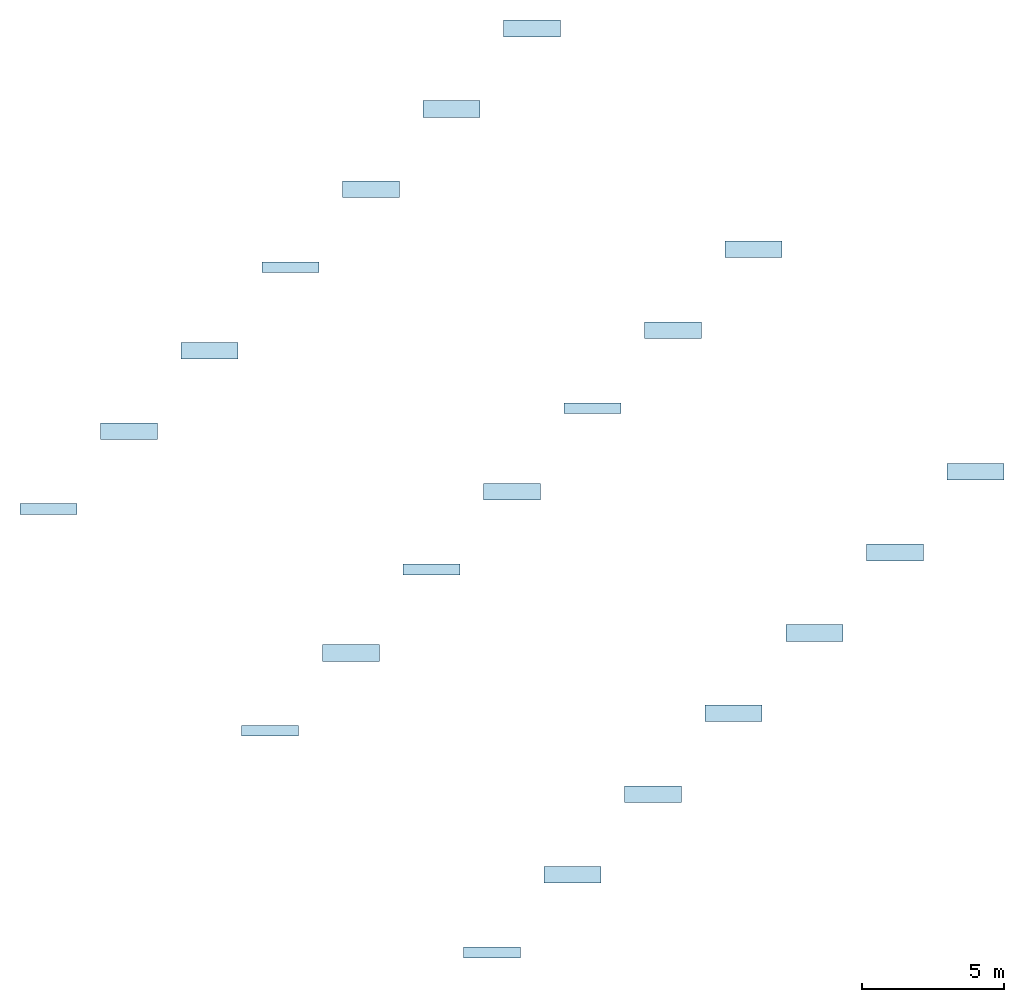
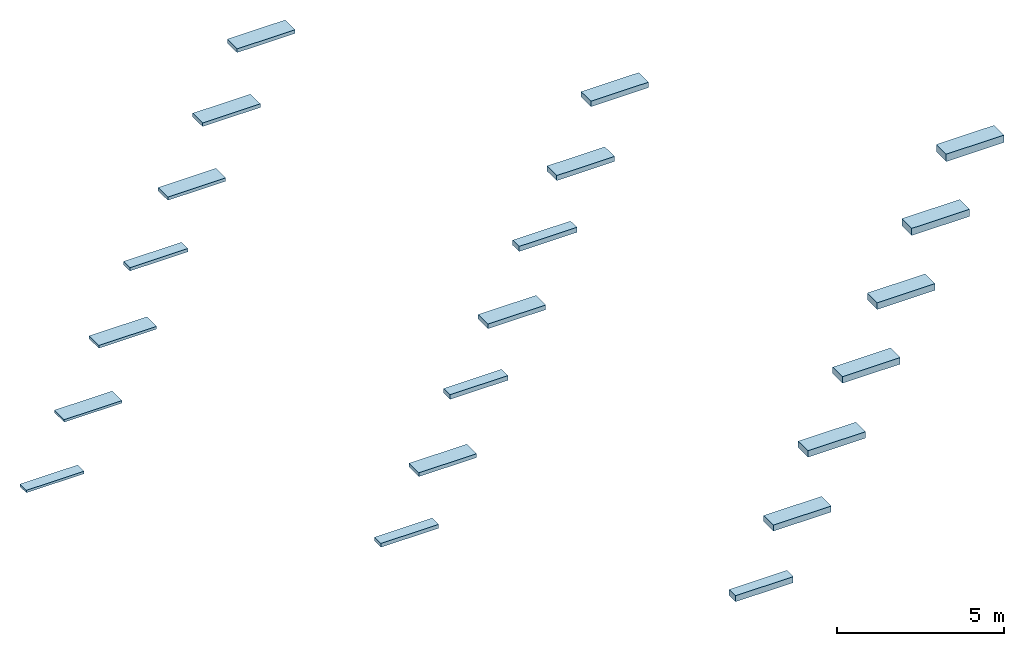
# One storey: 21 slabs, 21 elements without a shape of their own.
"""IFC2X3 building model written with IfcOpenShell, lengths in millimetres."""

from ifc_helpers import new_model, entity, si_unit, converted_unit, derived_unit, direction, frame, frame_2d, origin, origin_2d_with_axis, place, context, subcontext, project, spatial, rectangle, extrude, type_object, element, aggregate, save


model = new_model("IFC2X3")

# Units and contexts
model_context = context("Model", 3, precision=0.01, world=origin(), true_north=direction((6.12303176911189e-17, 1.0)))
context_of_model = context(None, 3, precision=0.01, world=origin(), true_north=direction((6.12303176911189e-17, 1.0)))
body_context = subcontext(model_context, "Body", "Model", "MODEL_VIEW")
ifc_project = project(units=[si_unit("LENGTHUNIT", "METRE", prefix="MILLI"), si_unit("AREAUNIT", "SQUARE_METRE"), si_unit("VOLUMEUNIT", "CUBIC_METRE"), converted_unit("PLANEANGLEUNIT", "DEGREE", entity("IfcRatioMeasure", 0.0174532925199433), si_unit("PLANEANGLEUNIT", "RADIAN"), dimensions=[0, 0, 0, 0, 0, 0, 0]), si_unit("MASSUNIT", "GRAM", prefix="KILO"), derived_unit("MASSDENSITYUNIT", [(si_unit("MASSUNIT", "GRAM", prefix="KILO"), 1), (si_unit("LENGTHUNIT", "METRE"), -3)]), derived_unit("MOMENTOFINERTIAUNIT", [(si_unit("LENGTHUNIT", "METRE"), 4)]), si_unit("TIMEUNIT", "SECOND"), si_unit("FREQUENCYUNIT", "HERTZ"), si_unit("THERMODYNAMICTEMPERATUREUNIT", "DEGREE_CELSIUS"), derived_unit("THERMALTRANSMITTANCEUNIT", [(si_unit("MASSUNIT", "GRAM", prefix="KILO"), 1), (si_unit("THERMODYNAMICTEMPERATUREUNIT", "KELVIN"), -1), (si_unit("TIMEUNIT", "SECOND"), -3)]), derived_unit("VOLUMETRICFLOWRATEUNIT", [(si_unit("LENGTHUNIT", "METRE"), 3), (si_unit("TIMEUNIT", "SECOND"), -1)]), si_unit("ELECTRICCURRENTUNIT", "AMPERE"), si_unit("ELECTRICVOLTAGEUNIT", "VOLT"), si_unit("POWERUNIT", "WATT"), si_unit("FORCEUNIT", "NEWTON", prefix="KILO"), si_unit("ILLUMINANCEUNIT", "LUX"), si_unit("LUMINOUSFLUXUNIT", "LUMEN"), si_unit("LUMINOUSINTENSITYUNIT", "CANDELA"), derived_unit("USERDEFINED", [(si_unit("MASSUNIT", "GRAM", prefix="KILO"), -1), (si_unit("LENGTHUNIT", "METRE"), -2), (si_unit("TIMEUNIT", "SECOND"), 3), (si_unit("LUMINOUSFLUXUNIT", "LUMEN"), 1)]), derived_unit("LINEARVELOCITYUNIT", [(si_unit("LENGTHUNIT", "METRE"), 1), (si_unit("TIMEUNIT", "SECOND"), -1)]), si_unit("PRESSUREUNIT", "PASCAL"), derived_unit("USERDEFINED", [(si_unit("LENGTHUNIT", "METRE"), -2), (si_unit("MASSUNIT", "GRAM", prefix="KILO"), 1), (si_unit("TIMEUNIT", "SECOND"), -2)]), derived_unit("LINEARFORCEUNIT", [(si_unit("MASSUNIT", "GRAM", prefix="KILO"), 1), (si_unit("LENGTHUNIT", "METRE"), 1), (si_unit("TIMEUNIT", "SECOND"), -2), (si_unit("LENGTHUNIT", "METRE"), -1)]), derived_unit("PLANARFORCEUNIT", [(si_unit("MASSUNIT", "GRAM", prefix="KILO"), 1), (si_unit("LENGTHUNIT", "METRE"), 1), (si_unit("TIMEUNIT", "SECOND"), -2), (si_unit("LENGTHUNIT", "METRE"), -2)])], contexts=[model_context, context_of_model])

# Site, building, storey
site_placement = place(None, origin())
site = spatial("IfcSite", under=ifc_project, at=site_placement, Name="Default", CompositionType="ELEMENT")
building_placement = place(site_placement, origin())
building = spatial("IfcBuilding", under=site, at=building_placement, CompositionType="ELEMENT")
storey_placement = place(building_placement, frame((0.0, 0.0, 2500.0)))
storey = spatial("IfcBuildingStorey", under=building, at=storey_placement, Name="Lengte", CompositionType="ELEMENT", Elevation=2500.0)

# Roof, slab
roof_1_placement = place(storey_placement, frame((-4546.98927921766, 4066.91437812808, 0.0)))
roof_1 = element("IfcRoof", 1, at=roof_1_placement, inside=storey, Name="Basic Roof:NLRS_27_RO_Naturoll 035_90x380x7600mm", ObjectType="Basic Roof:NLRS_27_RO_Naturoll 035_90x380x7600mm", ShapeType="NOTDEFINED")
slab_type_1 = type_object("IfcSlabType", Name="Basic Roof:NLRS_27_RO_Naturoll 035_90x380x7600mm", PredefinedType="ROOF")
slab_1_placement = place(roof_1_placement, origin())
slab_1 = element("IfcSlab", 2, at=slab_1_placement, type_object=slab_type_1, Name="Basic Roof:NLRS_27_RO_Naturoll 035_90x380x7600mm", ObjectType="Basic Roof:NLRS_27_RO_Naturoll 035_90x380x7600mm", PredefinedType="NOTDEFINED", context=body_context, shape_type="SweptSolid", body=[
    extrude(rectangle(XDim=2000.0, YDim=380.000000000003, at=frame_2d((-2.8421709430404e-13, -2.70006239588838e-13), x_axis=(1.0, 0.0))), frame((1000.0, 190.0, 0.0)), (0.0, 0.0, 1.0), 90.0000000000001),
])
aggregate(roof_1, [slab_1])

roof_2_placement = place(storey_placement, frame((-1718.56215447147, 6695.34150287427, 0.0)))
roof_2 = element("IfcRoof", 3, at=roof_2_placement, inside=storey, Name="Basic Roof:NLRS_27_RO_Naturoll 035_90x580x7600mm", ObjectType="Basic Roof:NLRS_27_RO_Naturoll 035_90x580x7600mm", ShapeType="NOTDEFINED")
slab_type_2 = type_object("IfcSlabType", Name="Basic Roof:NLRS_27_RO_Naturoll 035_90x580x7600mm", PredefinedType="ROOF")
slab_2_placement = place(roof_2_placement, origin())
slab_2 = element("IfcSlab", 4, at=slab_2_placement, type_object=slab_type_2, Name="Basic Roof:NLRS_27_RO_Naturoll 035_90x580x7600mm", ObjectType="Basic Roof:NLRS_27_RO_Naturoll 035_90x580x7600mm", PredefinedType="NOTDEFINED", context=body_context, shape_type="SweptSolid", body=[
    extrude(rectangle(XDim=2000.0, YDim=580.000000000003, at=frame_2d((0.0, -5.40012479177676e-13), x_axis=(1.0, 0.0))), frame((1000.0, 290.0, 0.0)), (0.0, 0.0, 1.0), 90.0000000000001),
])
aggregate(roof_2, [slab_2])

roof_3_placement = place(storey_placement, frame((1109.86497027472, 9523.76862762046, 0.0)))
roof_3 = element("IfcRoof", 5, at=roof_3_placement, inside=storey, Name="Basic Roof:NLRS_27_RO_Naturoll 035_100x580x7400mm", ObjectType="Basic Roof:NLRS_27_RO_Naturoll 035_100x580x7400mm", ShapeType="NOTDEFINED")
slab_type_3 = type_object("IfcSlabType", Name="Basic Roof:NLRS_27_RO_Naturoll 035_100x580x7400mm", PredefinedType="ROOF")
slab_3_placement = place(roof_3_placement, origin())
slab_3 = element("IfcSlab", 6, at=slab_3_placement, type_object=slab_type_3, Name="Basic Roof:NLRS_27_RO_Naturoll 035_100x580x7400mm", ObjectType="Basic Roof:NLRS_27_RO_Naturoll 035_100x580x7400mm", PredefinedType="NOTDEFINED", context=body_context, shape_type="SweptSolid", body=[
    extrude(rectangle(XDim=2000.0, YDim=580.000000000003, at=frame_2d((0.0, -5.40012479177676e-13), x_axis=(1.0, 0.0))), frame((1000.0, 290.0, 0.0)), (0.0, 0.0, 1.0), 100.0),
])
aggregate(roof_3, [slab_3])

roof_4_placement = place(storey_placement, frame((3938.29209502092, 12552.1957523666, 0.0)))
roof_4 = element("IfcRoof", 7, at=roof_4_placement, inside=storey, Name="Basic Roof:NLRS_27_RO_Naturoll 035_120x380x6200mm", ObjectType="Basic Roof:NLRS_27_RO_Naturoll 035_120x380x6200mm", ShapeType="NOTDEFINED")
slab_type_4 = type_object("IfcSlabType", Name="Basic Roof:NLRS_27_RO_Naturoll 035_120x380x6200mm", PredefinedType="ROOF")
slab_4_placement = place(roof_4_placement, origin())
slab_4 = element("IfcSlab", 8, at=slab_4_placement, type_object=slab_type_4, Name="Basic Roof:NLRS_27_RO_Naturoll 035_120x380x6200mm", ObjectType="Basic Roof:NLRS_27_RO_Naturoll 035_120x380x6200mm", PredefinedType="NOTDEFINED", context=body_context, shape_type="SweptSolid", body=[
    extrude(rectangle(XDim=2000.0, YDim=380.0, at=frame_2d((5.6843418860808e-13, 0.0), x_axis=(1.0, 0.0))), frame((1000.0, 190.0, 0.0)), (0.0, 0.0, 1.0), 120.0),
])
aggregate(roof_4, [slab_4])

roof_5_placement = place(storey_placement, frame((6766.71921976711, 15180.6228771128, 0.0)))
roof_5 = element("IfcRoof", 9, at=roof_5_placement, inside=storey, Name="Basic Roof:NLRS_27_RO_Naturoll 035_120x580x6200mm", ObjectType="Basic Roof:NLRS_27_RO_Naturoll 035_120x580x6200mm", ShapeType="NOTDEFINED")
slab_type_5 = type_object("IfcSlabType", Name="Basic Roof:NLRS_27_RO_Naturoll 035_120x580x6200mm", PredefinedType="ROOF")
slab_5_placement = place(roof_5_placement, origin())
slab_5 = element("IfcSlab", 10, at=slab_5_placement, type_object=slab_type_5, Name="Basic Roof:NLRS_27_RO_Naturoll 035_120x580x6200mm", ObjectType="Basic Roof:NLRS_27_RO_Naturoll 035_120x580x6200mm", PredefinedType="NOTDEFINED", context=body_context, shape_type="SweptSolid", body=[
    extrude(rectangle(XDim=2000.0, YDim=580.000000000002, at=frame_2d((5.6843418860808e-13, 0.0), x_axis=(1.0, 0.0))), frame((1000.0, 290.0, 0.0)), (0.0, 0.0, 1.0), 120.0),
])
aggregate(roof_5, [slab_5])

roof_6_placement = place(storey_placement, frame((9595.1463445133, 17999.050001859, 0.0)))
roof_6 = element("IfcRoof", 11, at=roof_6_placement, inside=storey, Name="Basic Roof:NLRS_27_RO_Naturoll 035_130x590x5500mm", ObjectType="Basic Roof:NLRS_27_RO_Naturoll 035_130x590x5500mm", ShapeType="NOTDEFINED")
slab_type_6 = type_object("IfcSlabType", Name="Basic Roof:NLRS_27_RO_Naturoll 035_130x590x5500mm", PredefinedType="ROOF")
slab_6_placement = place(roof_6_placement, origin())
slab_6 = element("IfcSlab", 12, at=slab_6_placement, type_object=slab_type_6, Name="Basic Roof:NLRS_27_RO_Naturoll 035_130x590x5500mm", ObjectType="Basic Roof:NLRS_27_RO_Naturoll 035_130x590x5500mm", PredefinedType="NOTDEFINED", context=body_context, shape_type="SweptSolid", body=[
    extrude(rectangle(XDim=2000.0, YDim=590.000000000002, at=frame_2d((1.08002495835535e-12, -1.08002495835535e-12), x_axis=(1.0, 0.0))), frame((1000.0, 295.0, 0.0)), (0.0, 0.0, 1.0), 130.0),
])
aggregate(roof_6, [slab_6])

roof_7_placement = place(storey_placement, frame((3230.86513464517, -3711.58039411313, 0.0)))
roof_7 = element("IfcRoof", 13, at=roof_7_placement, inside=storey, Name="Basic Roof:NLRS_27_RO_Naturoll 035_140x380x5300mm", ObjectType="Basic Roof:NLRS_27_RO_Naturoll 035_140x380x5300mm", ShapeType="NOTDEFINED")
slab_type_7 = type_object("IfcSlabType", Name="Basic Roof:NLRS_27_RO_Naturoll 035_140x380x5300mm", PredefinedType="ROOF")
slab_7_placement = place(roof_7_placement, origin())
slab_7 = element("IfcSlab", 14, at=slab_7_placement, type_object=slab_type_7, Name="Basic Roof:NLRS_27_RO_Naturoll 035_140x380x5300mm", ObjectType="Basic Roof:NLRS_27_RO_Naturoll 035_140x380x5300mm", PredefinedType="NOTDEFINED", context=body_context, shape_type="SweptSolid", body=[
    extrude(rectangle(XDim=2000.0, YDim=380.000000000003, at=frame_2d((0.0, 2.70006239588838e-13), x_axis=(1.0, 0.0))), frame((1000.0, 190.0, 0.0)), (0.0, 0.0, 1.0), 140.0),
])
aggregate(roof_7, [slab_7])

roof_8_placement = place(storey_placement, frame((6059.29225939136, -1083.15326936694, 0.0)))
roof_8 = element("IfcRoof", 15, at=roof_8_placement, inside=storey, Name="Basic Roof:NLRS_27_RO_Naturoll 035_140x580x5300mm", ObjectType="Basic Roof:NLRS_27_RO_Naturoll 035_140x580x5300mm", ShapeType="NOTDEFINED")
slab_type_8 = type_object("IfcSlabType", Name="Basic Roof:NLRS_27_RO_Naturoll 035_140x580x5300mm", PredefinedType="ROOF")
slab_8_placement = place(roof_8_placement, origin())
slab_8 = element("IfcSlab", 16, at=slab_8_placement, type_object=slab_type_8, Name="Basic Roof:NLRS_27_RO_Naturoll 035_140x580x5300mm", ObjectType="Basic Roof:NLRS_27_RO_Naturoll 035_140x580x5300mm", PredefinedType="NOTDEFINED", context=body_context, shape_type="SweptSolid", body=[
    extrude(rectangle(XDim=2000.0, YDim=579.999999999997, at=origin_2d_with_axis()), frame((1000.0, 290.0, 0.0)), (0.0, 0.0, 1.0), 140.0),
])
aggregate(roof_8, [slab_8])

roof_9_placement = place(storey_placement, frame((8887.71938413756, 1945.27385537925, 0.0)))
roof_9 = element("IfcRoof", 17, at=roof_9_placement, inside=storey, Name="Basic Roof:NLRS_27_RO_Naturoll 035_170x380x4350mm", ObjectType="Basic Roof:NLRS_27_RO_Naturoll 035_170x380x4350mm", ShapeType="NOTDEFINED")
slab_type_9 = type_object("IfcSlabType", Name="Basic Roof:NLRS_27_RO_Naturoll 035_170x380x4350mm", PredefinedType="ROOF")
slab_9_placement = place(roof_9_placement, origin())
slab_9 = element("IfcSlab", 18, at=slab_9_placement, type_object=slab_type_9, Name="Basic Roof:NLRS_27_RO_Naturoll 035_170x380x4350mm", ObjectType="Basic Roof:NLRS_27_RO_Naturoll 035_170x380x4350mm", PredefinedType="NOTDEFINED", context=body_context, shape_type="SweptSolid", body=[
    extrude(rectangle(XDim=2000.0, YDim=379.999999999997, at=frame_2d((-5.11590769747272e-13, 0.0), x_axis=(1.0, 0.0))), frame((1000.0, 190.0, 0.0)), (0.0, 0.0, 1.0), 170.0),
])
aggregate(roof_9, [slab_9])

roof_10_placement = place(storey_placement, frame((11716.1465088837, 4573.70098012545, 0.0)))
roof_10 = element("IfcRoof", 19, at=roof_10_placement, inside=storey, Name="Basic Roof:NLRS_27_RO_Naturoll 035_170x580x4350mm", ObjectType="Basic Roof:NLRS_27_RO_Naturoll 035_170x580x4350mm", ShapeType="NOTDEFINED")
slab_type_10 = type_object("IfcSlabType", Name="Basic Roof:NLRS_27_RO_Naturoll 035_170x580x4350mm", PredefinedType="ROOF")
slab_10_placement = place(roof_10_placement, origin())
slab_10 = element("IfcSlab", 20, at=slab_10_placement, type_object=slab_type_10, Name="Basic Roof:NLRS_27_RO_Naturoll 035_170x580x4350mm", ObjectType="Basic Roof:NLRS_27_RO_Naturoll 035_170x580x4350mm", PredefinedType="NOTDEFINED", context=body_context, shape_type="SweptSolid", body=[
    extrude(rectangle(XDim=2000.0, YDim=579.999999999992, at=frame_2d((-1.08002495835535e-12, 0.0), x_axis=(1.0, 0.0))), frame((1000.0, 290.0, 0.0)), (0.0, 0.0, 1.0), 170.0),
])
aggregate(roof_10, [slab_10])

roof_11_placement = place(storey_placement, frame((14544.5736336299, 7602.12810487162, 0.0)))
roof_11 = element("IfcRoof", 21, at=roof_11_placement, inside=storey, Name="Basic Roof:NLRS_27_RO_Naturoll 035_185x380x4000mm", ObjectType="Basic Roof:NLRS_27_RO_Naturoll 035_185x380x4000mm", ShapeType="NOTDEFINED")
slab_type_11 = type_object("IfcSlabType", Name="Basic Roof:NLRS_27_RO_Naturoll 035_185x380x4000mm", PredefinedType="ROOF")
slab_11_placement = place(roof_11_placement, origin())
slab_11 = element("IfcSlab", 22, at=slab_11_placement, type_object=slab_type_11, Name="Basic Roof:NLRS_27_RO_Naturoll 035_185x380x4000mm", ObjectType="Basic Roof:NLRS_27_RO_Naturoll 035_185x380x4000mm", PredefinedType="NOTDEFINED", context=body_context, shape_type="SweptSolid", body=[
    extrude(rectangle(XDim=2000.0, YDim=380.0, at=frame_2d((-1.08002495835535e-12, 0.0), x_axis=(1.0, 0.0))), frame((1000.0, 190.0, 0.0)), (0.0, 0.0, 1.0), 185.0),
])
aggregate(roof_11, [slab_11])

roof_12_placement = place(storey_placement, frame((20189.3006541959, 13077.6741056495, 0.0)))
roof_12 = element("IfcRoof", 23, at=roof_12_placement, inside=storey, Name="Basic Roof:NLRS_27_RO_Naturoll 035_200x580x3700mm", ObjectType="Basic Roof:NLRS_27_RO_Naturoll 035_200x580x3700mm", ShapeType="NOTDEFINED")
slab_type_12 = type_object("IfcSlabType", Name="Basic Roof:NLRS_27_RO_Naturoll 035_200x580x3700mm", PredefinedType="ROOF")
slab_12_placement = place(roof_12_placement, origin())
slab_12 = element("IfcSlab", 24, at=slab_12_placement, type_object=slab_type_12, Name="Basic Roof:NLRS_27_RO_Naturoll 035_200x580x3700mm", ObjectType="Basic Roof:NLRS_27_RO_Naturoll 035_200x580x3700mm", PredefinedType="NOTDEFINED", context=body_context, shape_type="SweptSolid", body=[
    extrude(rectangle(XDim=2000.0, YDim=580.000000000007, at=frame_2d((2.1600499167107e-12, 0.0), x_axis=(1.0, 0.0))), frame((1000.0, 290.0, 0.0)), (0.0, 0.0, 1.0), 200.0),
])
aggregate(roof_12, [slab_12])

roof_13_placement = place(storey_placement, frame((11009.0397276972, -11489.7549871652, 0.0)))
roof_13 = element("IfcRoof", 25, at=roof_13_placement, inside=storey, Name="Basic Roof:NLRS_27_RO_Naturoll 035_220x380x3400mm", ObjectType="Basic Roof:NLRS_27_RO_Naturoll 035_220x380x3400mm", ShapeType="NOTDEFINED")
slab_type_13 = type_object("IfcSlabType", Name="Basic Roof:NLRS_27_RO_Naturoll 035_220x380x3400mm", PredefinedType="ROOF")
slab_13_placement = place(roof_13_placement, origin())
slab_13 = element("IfcSlab", 26, at=slab_13_placement, type_object=slab_type_13, Name="Basic Roof:NLRS_27_RO_Naturoll 035_220x380x3400mm", ObjectType="Basic Roof:NLRS_27_RO_Naturoll 035_220x380x3400mm", PredefinedType="NOTDEFINED", context=body_context, shape_type="SweptSolid", body=[
    extrude(rectangle(XDim=2000.0, YDim=380.000000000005, at=frame_2d((-1.08002495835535e-12, 0.0), x_axis=(1.0, 0.0))), frame((1000.0, 190.0, 0.0)), (0.0, 0.0, 1.0), 220.0),
])
aggregate(roof_13, [slab_13])

roof_14_placement = place(storey_placement, frame((13837.4668524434, -8861.32786241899, 0.0)))
roof_14 = element("IfcRoof", 27, at=roof_14_placement, inside=storey, Name="Basic Roof:NLRS_27_RO_Naturoll 035_220x580x3400mm", ObjectType="Basic Roof:NLRS_27_RO_Naturoll 035_220x580x3400mm", ShapeType="NOTDEFINED")
slab_type_14 = type_object("IfcSlabType", Name="Basic Roof:NLRS_27_RO_Naturoll 035_220x580x3400mm", PredefinedType="ROOF")
slab_14_placement = place(roof_14_placement, origin())
slab_14 = element("IfcSlab", 28, at=slab_14_placement, type_object=slab_type_14, Name="Basic Roof:NLRS_27_RO_Naturoll 035_220x580x3400mm", ObjectType="Basic Roof:NLRS_27_RO_Naturoll 035_220x580x3400mm", PredefinedType="NOTDEFINED", context=body_context, shape_type="SweptSolid", body=[
    extrude(rectangle(XDim=2000.0, YDim=580.000000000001, at=frame_2d((0.0, -5.40012479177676e-13), x_axis=(1.0, 0.0))), frame((1000.0, 290.0, 0.0)), (0.0, 0.0, 1.0), 220.0),
])
aggregate(roof_14, [slab_14])

roof_15_placement = place(storey_placement, frame((16665.8939771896, -6032.9007376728, 0.0)))
roof_15 = element("IfcRoof", 29, at=roof_15_placement, inside=storey, Name="Basic Roof:NLRS_27_RO_Naturoll 035_235x580x3100mm", ObjectType="Basic Roof:NLRS_27_RO_Naturoll 035_235x580x3100mm", ShapeType="NOTDEFINED")
slab_type_15 = type_object("IfcSlabType", Name="Basic Roof:NLRS_27_RO_Naturoll 035_235x580x3100mm", PredefinedType="ROOF")
slab_15_placement = place(roof_15_placement, origin())
slab_15 = element("IfcSlab", 30, at=slab_15_placement, type_object=slab_type_15, Name="Basic Roof:NLRS_27_RO_Naturoll 035_235x580x3100mm", ObjectType="Basic Roof:NLRS_27_RO_Naturoll 035_235x580x3100mm", PredefinedType="NOTDEFINED", context=body_context, shape_type="SweptSolid", body=[
    extrude(rectangle(XDim=2000.0, YDim=580.0, at=origin_2d_with_axis()), frame((1000.0, 290.0, 0.0)), (0.0, 0.0, 1.0), 235.0),
])
aggregate(roof_15, [slab_15])

roof_16_placement = place(storey_placement, frame((19494.3211019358, -3204.47361292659, 0.0)))
roof_16 = element("IfcRoof", 31, at=roof_16_placement, inside=storey, Name="Basic Roof:NLRS_27_RO_Naturoll 035_240x580x3100mm", ObjectType="Basic Roof:NLRS_27_RO_Naturoll 035_240x580x3100mm", ShapeType="NOTDEFINED")
slab_type_16 = type_object("IfcSlabType", Name="Basic Roof:NLRS_27_RO_Naturoll 035_240x580x3100mm", PredefinedType="ROOF")
slab_16_placement = place(roof_16_placement, origin())
slab_16 = element("IfcSlab", 32, at=slab_16_placement, type_object=slab_type_16, Name="Basic Roof:NLRS_27_RO_Naturoll 035_240x580x3100mm", ObjectType="Basic Roof:NLRS_27_RO_Naturoll 035_240x580x3100mm", PredefinedType="NOTDEFINED", context=body_context, shape_type="SweptSolid", body=[
    extrude(rectangle(XDim=2000.0, YDim=579.999999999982, at=frame_2d((-1.08002495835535e-12, 0.0), x_axis=(1.0, 0.0))), frame((1000.0, 290.0, 0.0)), (0.0, 0.0, 1.0), 240.0),
])
aggregate(roof_16, [slab_16])

roof_17_placement = place(storey_placement, frame((27979.6024761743, 5270.80776131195, 0.0)))
roof_17 = element("IfcRoof", 33, at=roof_17_placement, inside=storey, Name="Basic Roof:NLRS_27_RO_Naturoll 035_270x590x2600mm", ObjectType="Basic Roof:NLRS_27_RO_Naturoll 035_270x590x2600mm", ShapeType="NOTDEFINED")
slab_type_17 = type_object("IfcSlabType", Name="Basic Roof:NLRS_27_RO_Naturoll 035_270x590x2600mm", PredefinedType="ROOF")
slab_17_placement = place(roof_17_placement, origin())
slab_17 = element("IfcSlab", 34, at=slab_17_placement, type_object=slab_type_17, Name="Basic Roof:NLRS_27_RO_Naturoll 035_270x590x2600mm", ObjectType="Basic Roof:NLRS_27_RO_Naturoll 035_270x590x2600mm", PredefinedType="NOTDEFINED", context=body_context, shape_type="SweptSolid", body=[
    extrude(rectangle(XDim=2000.0, YDim=590.000000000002, at=frame_2d((-2.1600499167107e-12, 0.0), x_axis=(1.0, 0.0))), frame((1000.0, 295.0, 0.0)), (0.0, 0.0, 1.0), 270.0),
])
aggregate(roof_17, [slab_17])

roof_18_placement = place(storey_placement, frame((17373.0007583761, 10245.5552296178, 0.0)))
roof_18 = element("IfcRoof", 35, at=roof_18_placement, inside=storey, Name="Basic Roof:NLRS_27_RO_Naturoll 035_185x580x4000mm", ObjectType="Basic Roof:NLRS_27_RO_Naturoll 035_185x580x4000mm", ShapeType="NOTDEFINED")
slab_type_18 = type_object("IfcSlabType", Name="Basic Roof:NLRS_27_RO_Naturoll 035_185x580x4000mm", PredefinedType="ROOF")
slab_18_placement = place(roof_18_placement, origin())
slab_18 = element("IfcSlab", 36, at=slab_18_placement, type_object=slab_type_18, Name="Basic Roof:NLRS_27_RO_Naturoll 035_185x580x4000mm", ObjectType="Basic Roof:NLRS_27_RO_Naturoll 035_185x580x4000mm", PredefinedType="NOTDEFINED", context=body_context, shape_type="SweptSolid", body=[
    extrude(rectangle(XDim=2000.0, YDim=580.000000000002, at=origin_2d_with_axis()), frame((1000.0, 290.0, 0.0)), (0.0, 0.0, 1.0), 185.0),
])
aggregate(roof_18, [slab_18])

roof_19_placement = place(storey_placement, frame((12423.5734692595, 20827.4771266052, 0.0)))
roof_19 = element("IfcRoof", 37, at=roof_19_placement, inside=storey, Name="Basic Roof:NLRS_27_RO_Naturoll 035_135x590x5300mm", ObjectType="Basic Roof:NLRS_27_RO_Naturoll 035_135x590x5300mm", ShapeType="NOTDEFINED")
slab_type_19 = type_object("IfcSlabType", Name="Basic Roof:NLRS_27_RO_Naturoll 035_135x590x5300mm", PredefinedType="ROOF")
slab_19_placement = place(roof_19_placement, origin())
slab_19 = element("IfcSlab", 38, at=slab_19_placement, type_object=slab_type_19, Name="Basic Roof:NLRS_27_RO_Naturoll 035_135x590x5300mm", ObjectType="Basic Roof:NLRS_27_RO_Naturoll 035_135x590x5300mm", PredefinedType="NOTDEFINED", context=body_context, shape_type="SweptSolid", body=[
    extrude(rectangle(XDim=2000.0, YDim=590.000000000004, at=frame_2d((-1.08002495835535e-12, 0.0), x_axis=(1.0, 0.0))), frame((1000.0, 295.0, 0.0)), (0.0, 0.0, 1.0), 135.0),
])
aggregate(roof_19, [slab_19])

roof_20_placement = place(storey_placement, frame((25151.1753514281, 2442.38063656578, 0.0)))
roof_20 = element("IfcRoof", 39, at=roof_20_placement, inside=storey, Name="Basic Roof:NLRS_27_RO_Naturoll 035_260x590x2700mm", ObjectType="Basic Roof:NLRS_27_RO_Naturoll 035_260x590x2700mm", ShapeType="NOTDEFINED")
slab_type_20 = type_object("IfcSlabType", Name="Basic Roof:NLRS_27_RO_Naturoll 035_260x590x2700mm", PredefinedType="ROOF")
slab_20_placement = place(roof_20_placement, origin())
slab_20 = element("IfcSlab", 40, at=slab_20_placement, type_object=slab_type_20, Name="Basic Roof:NLRS_27_RO_Naturoll 035_260x590x2700mm", ObjectType="Basic Roof:NLRS_27_RO_Naturoll 035_260x590x2700mm", PredefinedType="NOTDEFINED", context=body_context, shape_type="SweptSolid", body=[
    extrude(rectangle(XDim=2000.0, YDim=589.999999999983, at=frame_2d((2.1600499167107e-12, 0.0), x_axis=(1.0, 0.0))), frame((1000.0, 295.0, 0.0)), (0.0, 0.0, 1.0), 260.0),
])
aggregate(roof_20, [slab_20])

roof_21_placement = place(storey_placement, frame((22322.748226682, -386.046488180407, 0.0)))
roof_21 = element("IfcRoof", 41, at=roof_21_placement, inside=storey, Name="Basic Roof:NLRS_27_RO_Naturoll 035_245x590x2600mm", ObjectType="Basic Roof:NLRS_27_RO_Naturoll 035_245x590x2600mm", ShapeType="NOTDEFINED")
slab_type_21 = type_object("IfcSlabType", Name="Basic Roof:NLRS_27_RO_Naturoll 035_245x590x2600mm", PredefinedType="ROOF")
slab_21_placement = place(roof_21_placement, origin())
slab_21 = element("IfcSlab", 42, at=slab_21_placement, type_object=slab_type_21, Name="Basic Roof:NLRS_27_RO_Naturoll 035_245x590x2600mm", ObjectType="Basic Roof:NLRS_27_RO_Naturoll 035_245x590x2600mm", PredefinedType="NOTDEFINED", context=body_context, shape_type="SweptSolid", body=[
    extrude(rectangle(XDim=2000.0, YDim=589.999999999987, at=frame_2d((-2.1600499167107e-12, 0.0), x_axis=(1.0, 0.0))), frame((1000.0, 295.0, 0.0)), (0.0, 0.0, 1.0), 245.0),
])
aggregate(roof_21, [slab_21])

save(model, "model.ifc")
